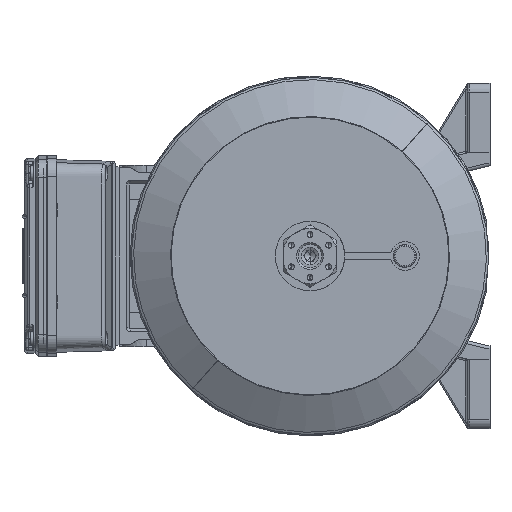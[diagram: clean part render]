
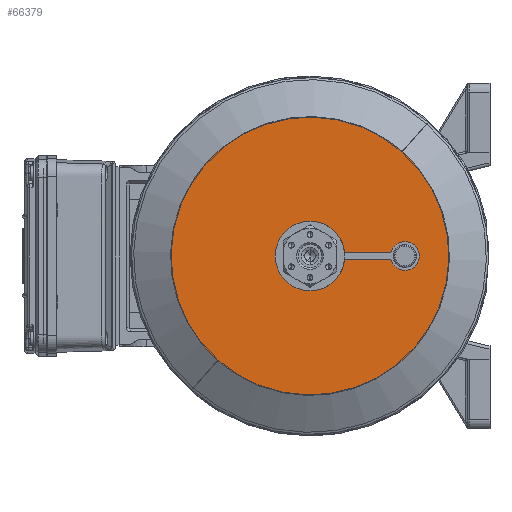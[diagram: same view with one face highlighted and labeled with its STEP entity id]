
A CAD part, left-side view. The second image highlights one B-rep face of the part: STEP entity #66379.
In plain terms, the highlighted planar face has unit normal (-1, 0, 0) as drawn and (0, -1, 0) by its records, which use the part's own axes.
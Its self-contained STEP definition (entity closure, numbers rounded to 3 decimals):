
#3057 = AXIS2_PLACEMENT_3D ( 'NONE', #19417, #82945, #28558 ) ;
#3609 = AXIS2_PLACEMENT_3D ( 'NONE', #29708, #93199, #38820 ) ;
#4011 = CIRCLE ( 'NONE', #3057, 77.5 ) ;
#8272 = EDGE_CURVE ( 'NONE', #93578, #109885, #4011, .T. ) ;
#10635 = AXIS2_PLACEMENT_3D ( 'NONE', #44150, #107717, #53308 ) ;
#12748 = DIRECTION ( 'NONE',  ( 0., -1., 0. ) ) ;
#16297 = CARTESIAN_POINT ( 'NONE',  ( 0., 0., -77.5 ) ) ;
#19417 = CARTESIAN_POINT ( 'NONE',  ( 0., 0., 0. ) ) ;
#21529 = PLANE ( 'NONE',  #98373 ) ;
#23140 = CARTESIAN_POINT ( 'NONE',  ( 0., 0., -13.5 ) ) ;
#23887 = DIRECTION ( 'NONE',  ( 0., 1., 0. ) ) ;
#26560 = VERTEX_POINT ( 'NONE', #23140 ) ;
#28558 = DIRECTION ( 'NONE',  ( 0., 0., 1. ) ) ;
#29708 = CARTESIAN_POINT ( 'NONE',  ( 0., 0., 0. ) ) ;
#35307 = EDGE_LOOP ( 'NONE', ( #78640, #112213 ) ) ;
#38239 = CARTESIAN_POINT ( 'NONE',  ( 0., 0., 13.5 ) ) ;
#38820 = DIRECTION ( 'NONE',  ( 0., 0., 1. ) ) ;
#44150 = CARTESIAN_POINT ( 'NONE',  ( 0., 0., 0. ) ) ;
#45088 = CIRCLE ( 'NONE', #3609, 77.5 ) ;
#51727 = CARTESIAN_POINT ( 'NONE',  ( 0., 0., 77.5 ) ) ;
#53086 = EDGE_CURVE ( 'NONE', #107725, #26560, #116561, .T. ) ;
#53308 = DIRECTION ( 'NONE',  ( 0., 0., 1. ) ) ;
#55245 = EDGE_CURVE ( 'NONE', #109885, #93578, #45088, .T. ) ;
#58991 = AXIS2_PLACEMENT_3D ( 'NONE', #78271, #23887, #87391 ) ;
#64689 = ORIENTED_EDGE ( 'NONE', *, *, #8272, .F. ) ;
#66379 = ADVANCED_FACE ( 'NONE', ( #97773, #73616 ), #21529, .T. ) ;
#73616 = FACE_OUTER_BOUND ( 'NONE', #113792, .T. ) ;
#76331 = DIRECTION ( 'NONE',  ( 0., 0., -1. ) ) ;
#78271 = CARTESIAN_POINT ( 'NONE',  ( 0., 0., 0. ) ) ;
#78640 = ORIENTED_EDGE ( 'NONE', *, *, #53086, .T. ) ;
#82945 = DIRECTION ( 'NONE',  ( 0., 1., 0. ) ) ;
#87391 = DIRECTION ( 'NONE',  ( 0., 0., 1. ) ) ;
#92430 = CIRCLE ( 'NONE', #10635, 13.5 ) ;
#93199 = DIRECTION ( 'NONE',  ( 0., 1., 0. ) ) ;
#93578 = VERTEX_POINT ( 'NONE', #51727 ) ;
#97773 = FACE_BOUND ( 'NONE', #35307, .T. ) ;
#98062 = ORIENTED_EDGE ( 'NONE', *, *, #55245, .F. ) ;
#98373 = AXIS2_PLACEMENT_3D ( 'NONE', #103352, #12748, #76331 ) ;
#103352 = CARTESIAN_POINT ( 'NONE',  ( -13.5, 0., 0. ) ) ;
#106920 = EDGE_CURVE ( 'NONE', #26560, #107725, #92430, .T. ) ;
#107717 = DIRECTION ( 'NONE',  ( 0., 1., 0. ) ) ;
#107725 = VERTEX_POINT ( 'NONE', #38239 ) ;
#109885 = VERTEX_POINT ( 'NONE', #16297 ) ;
#112213 = ORIENTED_EDGE ( 'NONE', *, *, #106920, .T. ) ;
#113792 = EDGE_LOOP ( 'NONE', ( #64689, #98062 ) ) ;
#116561 = CIRCLE ( 'NONE', #58991, 13.5 ) ;
